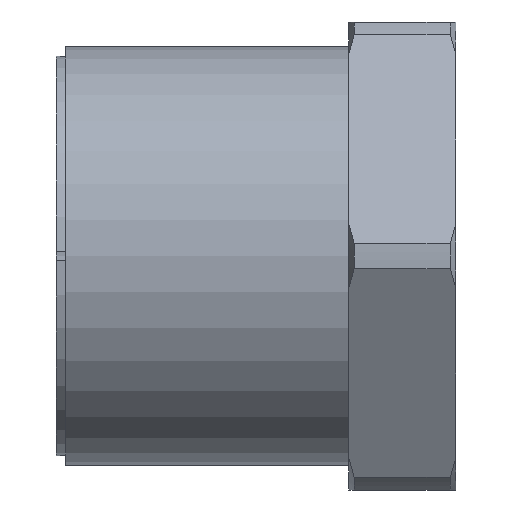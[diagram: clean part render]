
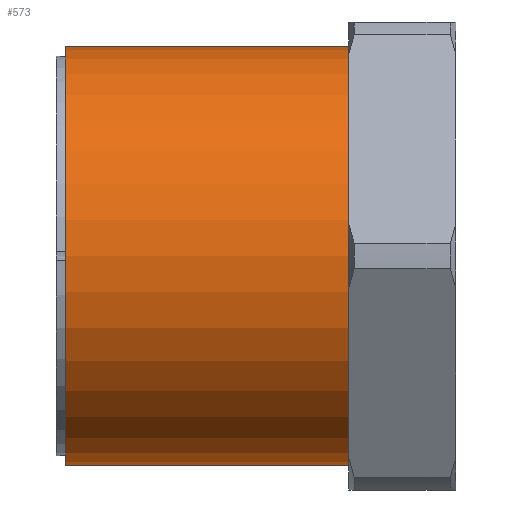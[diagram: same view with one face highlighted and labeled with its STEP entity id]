
A CAD part, front view. The second image highlights one B-rep face of the part: STEP entity #573.
In plain terms, the highlighted cylindrical face has radius 21.5 mm (diameter 43 mm), a partial arc.
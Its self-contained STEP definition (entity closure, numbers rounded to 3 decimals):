
#68 = DIRECTION ( 'NONE',  ( 0., 0., 1. ) ) ;
#73 = DIRECTION ( 'NONE',  ( -1., 0., 0. ) ) ;
#130 = CARTESIAN_POINT ( 'NONE',  ( 0., 0., 0. ) ) ;
#131 = DIRECTION ( 'NONE',  ( -1., 0., 0. ) ) ;
#135 = DIRECTION ( 'NONE',  ( 0., 0., 1. ) ) ;
#270 = CARTESIAN_POINT ( 'NONE',  ( 0., 0., 21.5 ) ) ;
#281 = CARTESIAN_POINT ( 'NONE',  ( 0., 0., -21.5 ) ) ;
#287 = CARTESIAN_POINT ( 'NONE',  ( 29., 0., -21.5 ) ) ;
#300 = CARTESIAN_POINT ( 'NONE',  ( 29., 0., 21.5 ) ) ;
#333 = VERTEX_POINT ( 'NONE', #300 ) ;
#346 = VERTEX_POINT ( 'NONE', #287 ) ;
#352 = VERTEX_POINT ( 'NONE', #281 ) ;
#363 = VERTEX_POINT ( 'NONE', #270 ) ;
#417 = LINE ( 'NONE', #648, #749 ) ;
#468 = CYLINDRICAL_SURFACE ( 'NONE', #901, 21.5 ) ;
#479 = FACE_OUTER_BOUND ( 'NONE', #1445, .T. ) ;
#573 = ADVANCED_FACE ( 'NONE', ( #479 ), #468, .T. ) ;
#614 = CARTESIAN_POINT ( 'NONE',  ( 0., 0., -21.5 ) ) ;
#641 = DIRECTION ( 'NONE',  ( -1., 0., 0. ) ) ;
#648 = CARTESIAN_POINT ( 'NONE',  ( 0., 0., 21.5 ) ) ;
#721 = CARTESIAN_POINT ( 'NONE',  ( 0., 0., 0. ) ) ;
#726 = DIRECTION ( 'NONE',  ( -1., 0., 0. ) ) ;
#746 = LINE ( 'NONE', #614, #748 ) ;
#748 = VECTOR ( 'NONE', #726, 1000. ) ;
#749 = VECTOR ( 'NONE', #641, 1000. ) ;
#799 = CIRCLE ( 'NONE', #843, 21.5 ) ;
#843 = AXIS2_PLACEMENT_3D ( 'NONE', #721, #73, #68 ) ;
#878 = AXIS2_PLACEMENT_3D ( 'NONE', #1075, #1074, #1073 ) ;
#901 = AXIS2_PLACEMENT_3D ( 'NONE', #130, #131, #135 ) ;
#963 = EDGE_CURVE ( 'NONE', #346, #333, #1262, .T. ) ;
#1035 = EDGE_CURVE ( 'NONE', #333, #363, #417, .T. ) ;
#1037 = EDGE_CURVE ( 'NONE', #346, #352, #746, .T. ) ;
#1059 = EDGE_CURVE ( 'NONE', #352, #363, #799, .T. ) ;
#1073 = DIRECTION ( 'NONE',  ( 0., 0., 1. ) ) ;
#1074 = DIRECTION ( 'NONE',  ( -1., 0., 0. ) ) ;
#1075 = CARTESIAN_POINT ( 'NONE',  ( 29., 0., 0. ) ) ;
#1262 = CIRCLE ( 'NONE', #878, 21.5 ) ;
#1275 = ORIENTED_EDGE ( 'NONE', *, *, #1037, .F. ) ;
#1276 = ORIENTED_EDGE ( 'NONE', *, *, #963, .T. ) ;
#1277 = ORIENTED_EDGE ( 'NONE', *, *, #1035, .T. ) ;
#1278 = ORIENTED_EDGE ( 'NONE', *, *, #1059, .F. ) ;
#1445 = EDGE_LOOP ( 'NONE', ( #1275, #1276, #1277, #1278 ) ) ;
